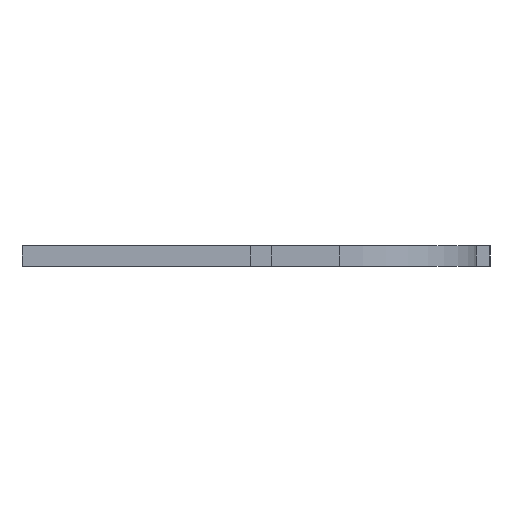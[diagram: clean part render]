
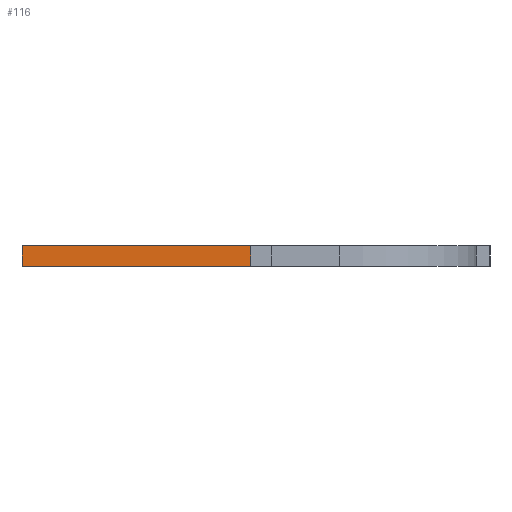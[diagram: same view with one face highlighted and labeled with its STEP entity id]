
A CAD part, left-side view. The second image highlights one B-rep face of the part: STEP entity #116.
In plain terms, the highlighted planar face has unit normal (-1, 0, 0).
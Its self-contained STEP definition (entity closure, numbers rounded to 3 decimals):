
#70 = EDGE_CURVE ( 'NONE', #1697, #1929, #1657, .T. ) ;
#116 = ADVANCED_FACE ( 'NONE', ( #1729 ), #784, .F. ) ;
#346 = VERTEX_POINT ( 'NONE', #1135 ) ;
#434 = CARTESIAN_POINT ( 'NONE',  ( -108., -38., 3. ) ) ;
#493 = CARTESIAN_POINT ( 'NONE',  ( -108., -25., 3. ) ) ;
#600 = EDGE_LOOP ( 'NONE', ( #1197, #659, #1100, #1442 ) ) ;
#659 = ORIENTED_EDGE ( 'NONE', *, *, #694, .T. ) ;
#693 = LINE ( 'NONE', #493, #1196 ) ;
#694 = EDGE_CURVE ( 'NONE', #1929, #807, #693, .T. ) ;
#784 = PLANE ( 'NONE',  #791 ) ;
#791 = AXIS2_PLACEMENT_3D ( 'NONE', #2013, #1698, #1067 ) ;
#807 = VERTEX_POINT ( 'NONE', #1453 ) ;
#840 = EDGE_CURVE ( 'NONE', #346, #807, #1039, .T. ) ;
#872 = DIRECTION ( 'NONE',  ( 0., -1., 0. ) ) ;
#939 = CARTESIAN_POINT ( 'NONE',  ( -108., 8.5, 3. ) ) ;
#968 = VECTOR ( 'NONE', #2046, 1000. ) ;
#1039 = LINE ( 'NONE', #434, #1369 ) ;
#1067 = DIRECTION ( 'NONE',  ( 0., 0., -1. ) ) ;
#1100 = ORIENTED_EDGE ( 'NONE', *, *, #840, .F. ) ;
#1135 = CARTESIAN_POINT ( 'NONE',  ( -108., 8.5, 3. ) ) ;
#1143 = DIRECTION ( 'NONE',  ( 0., 0., 1. ) ) ;
#1196 = VECTOR ( 'NONE', #1143, 1000. ) ;
#1197 = ORIENTED_EDGE ( 'NONE', *, *, #70, .T. ) ;
#1321 = EDGE_CURVE ( 'NONE', #346, #1697, #1875, .T. ) ;
#1369 = VECTOR ( 'NONE', #1389, 1000. ) ;
#1389 = DIRECTION ( 'NONE',  ( 0., -1., 0. ) ) ;
#1423 = CARTESIAN_POINT ( 'NONE',  ( -108., 8.5, 0. ) ) ;
#1442 = ORIENTED_EDGE ( 'NONE', *, *, #1321, .T. ) ;
#1453 = CARTESIAN_POINT ( 'NONE',  ( -108., -25., 3. ) ) ;
#1657 = LINE ( 'NONE', #1836, #1986 ) ;
#1697 = VERTEX_POINT ( 'NONE', #1423 ) ;
#1698 = DIRECTION ( 'NONE',  ( 1., 0., 0. ) ) ;
#1729 = FACE_OUTER_BOUND ( 'NONE', #600, .T. ) ;
#1836 = CARTESIAN_POINT ( 'NONE',  ( -108., -38., 0. ) ) ;
#1875 = LINE ( 'NONE', #939, #968 ) ;
#1929 = VERTEX_POINT ( 'NONE', #2001 ) ;
#1986 = VECTOR ( 'NONE', #872, 1000. ) ;
#2001 = CARTESIAN_POINT ( 'NONE',  ( -108., -25., 0. ) ) ;
#2013 = CARTESIAN_POINT ( 'NONE',  ( -108., -38., 3. ) ) ;
#2046 = DIRECTION ( 'NONE',  ( 0., 0., -1. ) ) ;
